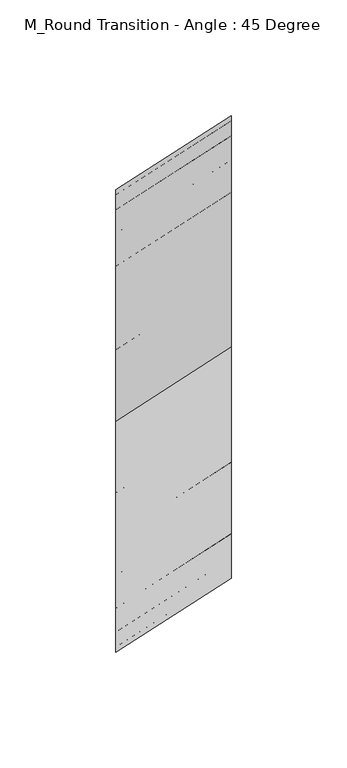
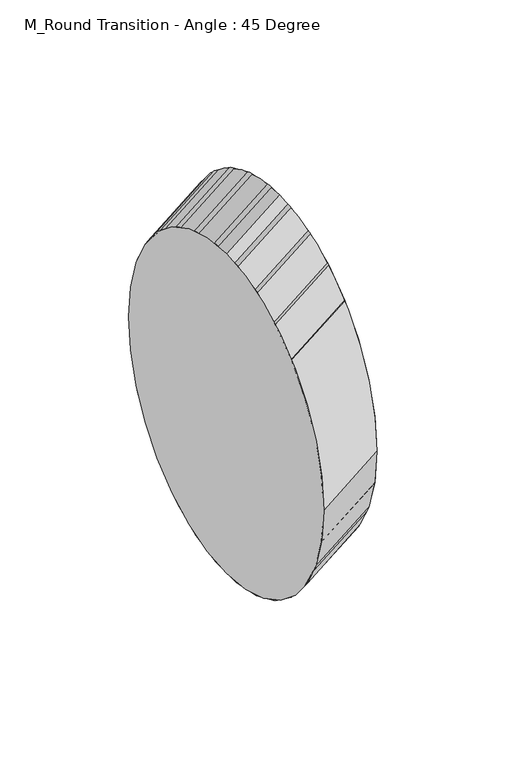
"""IFC4 building model written with IfcOpenShell, lengths in millimetres: duct fitting geometry, M_Round Transition - Angle : 45 Degree."""

from ifc_helpers import new_model, si_unit, point, frame, origin, place, context, project, spatial, circle_curve, trimmed, source, transform, mapped, element, save
from ifc_brep_helpers import plane_surface, extruded_surface, advanced_brep


def m_round_transition_angle_45_degree_277f6d53(model_context):
    return source(origin(), model_context, "Body", "AdvancedBrep", [
        advanced_brep(
        [(50.0, -67.9158404, 0.0), (50.0, 32.0841596, -100.0), (50.0, 132.0841596, 0.0), (50.0, 32.0841596, 100.0), (0.0, -100.0, 0.0), (0.0, 0.0, 100.0), (0.0, 100.0, 0.0), (0.0, 0.0, -100.0)],
        [
            (0, 1, circle_curve(frame((50.0, 32.0841596, 0.0), z_axis=(1.0, 0.0, 0.0), x_axis=(0.0, 1.0, 0.0)), 100.0)),
            (1, 2, circle_curve(frame((50.0, 32.0841596, 0.0), z_axis=(1.0, 0.0, 0.0), x_axis=(0.0, 1.0, 0.0)), 100.0)),
            (2, 3, circle_curve(frame((50.0, 32.0841596, 0.0), z_axis=(1.0, 0.0, 0.0), x_axis=(0.0, 1.0, 0.0)), 100.0)),
            (3, 0, circle_curve(frame((50.0, 32.0841596, 0.0), z_axis=(1.0, 0.0, 0.0), x_axis=(0.0, 1.0, 0.0)), 100.0)),
            (4, 5, circle_curve(frame((0.0, 0.0, 0.0), z_axis=(-1.0, 0.0, 0.0), x_axis=(0.0, 1.0, 0.0)), 100.0)),
            (5, 6, circle_curve(frame((0.0, 0.0, 0.0), z_axis=(-1.0, 0.0, 0.0), x_axis=(0.0, 1.0, 0.0)), 100.0)),
            (6, 7, circle_curve(frame((0.0, 0.0, 0.0), z_axis=(-1.0, 0.0, 0.0), x_axis=(0.0, 1.0, 0.0)), 100.0)),
            (7, 4, circle_curve(frame((0.0, 0.0, 0.0), z_axis=(-1.0, 0.0, 0.0), x_axis=(0.0, 1.0, 0.0)), 100.0)),
            (7, 1),
            (0, 4),
            (6, 2),
            (5, 3),
        ],
        [
            plane_surface(frame((50.0, 32.0841596, 0.0), z_axis=(1.0, 0.0, 0.0), x_axis=(0.0, 0.0, -1.0))),
            plane_surface(frame((0.0, 0.0, 0.0), z_axis=(-1.0, 0.0, 0.0), x_axis=(0.0, 0.0, -1.0))),
            extruded_surface(trimmed(circle_curve(frame((0.0, 0.0, 0.0), z_axis=(1.0, 0.0, 0.0), x_axis=(0.0, 1.0, 0.0)), 100.0), [point((0.0, -100.0, 0.0))], [point((0.0, 0.0, -100.0))], True, "CARTESIAN"), (50.0, 32.0841596, 0.0), 59.40869715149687),
            extruded_surface(trimmed(circle_curve(frame((0.0, 0.0, 0.0), z_axis=(1.0, 0.0, 0.0), x_axis=(0.0, 1.0, 0.0)), 100.0), [point((0.0, 0.0, -100.0))], [point((0.0, 100.0, 0.0))], True, "CARTESIAN"), (50.0, 32.0841596, 0.0), 59.40869715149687),
            extruded_surface(trimmed(circle_curve(frame((0.0, 0.0, 0.0), z_axis=(1.0, 0.0, 0.0), x_axis=(0.0, 1.0, 0.0)), 100.0), [point((0.0, 100.0, 0.0))], [point((0.0, 0.0, 100.0))], True, "CARTESIAN"), (50.0, 32.0841596, 0.0), 59.40869715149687),
            extruded_surface(trimmed(circle_curve(frame((0.0, 0.0, 0.0), z_axis=(1.0, 0.0, 0.0), x_axis=(0.0, 1.0, 0.0)), 100.0), [point((0.0, 0.0, 100.0))], [point((0.0, -100.0, 0.0))], True, "CARTESIAN"), (50.0, 32.0841596, 0.0), 59.40869715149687),
        ],
        [
            (0, [[1, 2, 3, 4]]),
            (1, [[5, 6, 7, 8]]),
            (2, [[-8, 9, -1, 10]]),
            (3, [[-7, 11, -2, -9]]),
            (4, [[-6, 12, -3, -11]]),
            (5, [[-5, -10, -4, -12]]),
        ],
    ),
        advanced_brep(
        [(0.0, -100.0, 0.0), (0.0, 0.0, 100.0), (0.0, 100.0, 0.0), (0.0, 0.0, -100.0), (50.0, -67.9158404, 0.0), (50.0, 32.0841596, -100.0), (50.0, 132.0841596, 0.0), (50.0, 32.0841596, 100.0)],
        [
            (0, 1, circle_curve(frame((0.0, 0.0, 0.0), z_axis=(-1.0, 0.0, 0.0), x_axis=(0.0, 1.0, 0.0)), 100.0)),
            (1, 2, circle_curve(frame((0.0, 0.0, 0.0), z_axis=(-1.0, 0.0, 0.0), x_axis=(0.0, 1.0, 0.0)), 100.0)),
            (2, 3, circle_curve(frame((0.0, 0.0, 0.0), z_axis=(-1.0, 0.0, 0.0), x_axis=(0.0, 1.0, 0.0)), 100.0)),
            (3, 0, circle_curve(frame((0.0, 0.0, 0.0), z_axis=(-1.0, 0.0, 0.0), x_axis=(0.0, 1.0, 0.0)), 100.0)),
            (4, 5, circle_curve(frame((50.0, 32.0841596, 0.0), z_axis=(1.0, 0.0, 0.0), x_axis=(0.0, 1.0, 0.0)), 100.0)),
            (5, 6, circle_curve(frame((50.0, 32.0841596, 0.0), z_axis=(1.0, 0.0, 0.0), x_axis=(0.0, 1.0, 0.0)), 100.0)),
            (6, 7, circle_curve(frame((50.0, 32.0841596, 0.0), z_axis=(1.0, 0.0, 0.0), x_axis=(0.0, 1.0, 0.0)), 100.0)),
            (7, 4, circle_curve(frame((50.0, 32.0841596, 0.0), z_axis=(1.0, 0.0, 0.0), x_axis=(0.0, 1.0, 0.0)), 100.0)),
            (7, 1),
            (0, 4),
            (6, 2),
            (5, 3),
        ],
        [
            plane_surface(frame((0.0, 0.0, 0.0), z_axis=(-1.0, 0.0, 0.0), x_axis=(0.0, 0.0, -1.0))),
            plane_surface(frame((50.0, 32.0841596, 0.0), z_axis=(1.0, 0.0, 0.0), x_axis=(0.0, 0.0, -1.0))),
            extruded_surface(trimmed(circle_curve(frame((50.0, 32.0841596, 0.0), z_axis=(-1.0, 0.0, 0.0), x_axis=(0.0, 1.0, 0.0)), 100.0), [point((50.0, -67.9158404, 0.0))], [point((50.0, 32.0841596, 100.0))], True, "CARTESIAN"), (-50.0, -32.0841596, 0.0), 59.40869715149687),
            extruded_surface(trimmed(circle_curve(frame((50.0, 32.0841596, 0.0), z_axis=(-1.0, 0.0, 0.0), x_axis=(0.0, 1.0, 0.0)), 100.0), [point((50.0, 32.0841596, 100.0))], [point((50.0, 132.0841596, 0.0))], True, "CARTESIAN"), (-50.0, -32.0841596, 0.0), 59.40869715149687),
            extruded_surface(trimmed(circle_curve(frame((50.0, 32.0841596, 0.0), z_axis=(-1.0, 0.0, 0.0), x_axis=(0.0, 1.0, 0.0)), 100.0), [point((50.0, 132.0841596, 0.0))], [point((50.0, 32.0841596, -100.0))], True, "CARTESIAN"), (-50.0, -32.0841596, 0.0), 59.40869715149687),
            extruded_surface(trimmed(circle_curve(frame((50.0, 32.0841596, 0.0), z_axis=(-1.0, 0.0, 0.0), x_axis=(0.0, 1.0, 0.0)), 100.0), [point((50.0, 32.0841596, -100.0))], [point((50.0, -67.9158404, 0.0))], True, "CARTESIAN"), (-50.0, -32.0841596, 0.0), 59.40869715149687),
        ],
        [
            (0, [[1, 2, 3, 4]]),
            (1, [[5, 6, 7, 8]]),
            (2, [[-8, 9, -1, 10]]),
            (3, [[-7, 11, -2, -9]]),
            (4, [[-6, 12, -3, -11]]),
            (5, [[-5, -10, -4, -12]]),
        ],
    ),
        advanced_brep(
        [(50.0, -67.9158404, 0.0), (50.0, 132.0841596, 0.0), (0.0, -100.0, 0.0), (0.0, 100.0, 0.0)],
        [
            (0, 1, circle_curve(frame((50.0, 32.0841596, 0.0), z_axis=(1.0, 0.0, 0.0), x_axis=(0.0, 1.0, 0.0)), 100.0)),
            (1, 0, circle_curve(frame((50.0, 32.0841596, 0.0), z_axis=(1.0, 0.0, 0.0), x_axis=(0.0, 1.0, 0.0)), 100.0)),
            (2, 3, circle_curve(frame((0.0, 0.0, 0.0), z_axis=(-1.0, 0.0, 0.0), x_axis=(0.0, 1.0, 0.0)), 100.0)),
            (3, 2, circle_curve(frame((0.0, 0.0, 0.0), z_axis=(-1.0, 0.0, 0.0), x_axis=(0.0, 1.0, 0.0)), 100.0)),
            (3, 1),
            (0, 2),
        ],
        [
            plane_surface(frame((50.0, 32.0841596, 0.0), z_axis=(1.0, 0.0, 0.0), x_axis=(0.0, 0.0, -1.0))),
            plane_surface(frame((0.0, 0.0, 0.0), z_axis=(-1.0, 0.0, 0.0), x_axis=(0.0, 0.0, -1.0))),
            extruded_surface(trimmed(circle_curve(frame((0.0, 0.0, 0.0), z_axis=(1.0, 0.0, 0.0), x_axis=(0.0, 1.0, 0.0)), 100.0), [point((0.0, -100.0, 0.0))], [point((0.0, 100.0, 0.0))], True, "CARTESIAN"), (50.0, 32.0841596, 0.0), 59.40869715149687),
            extruded_surface(trimmed(circle_curve(frame((0.0, 0.0, 0.0), z_axis=(1.0, 0.0, 0.0), x_axis=(0.0, 1.0, 0.0)), 100.0), [point((0.0, 100.0, 0.0))], [point((0.0, -100.0, 0.0))], True, "CARTESIAN"), (50.0, 32.0841596, 0.0), 59.40869715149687),
        ],
        [
            (0, [[1, 2]]),
            (1, [[3, 4]]),
            (2, [[-4, 5, -1, 6]]),
            (3, [[-3, -6, -2, -5]]),
        ],
    ),
    ])


if __name__ == "__main__":
    model = new_model("IFC4")
    model_context = context("Model", 3, world=origin())
    ifc_project = project(units=[si_unit("LENGTHUNIT", "METRE", prefix="MILLI")], contexts=[model_context])
    site = spatial("IfcSite", under=ifc_project)
    building = spatial("IfcBuilding", under=site)
    placement = place(None, origin())
    m_round_transition_angle_45_degree_shape = m_round_transition_angle_45_degree_277f6d53(model_context)
    element("IfcDuctFitting", 1, ObjectType="M_Round Transition - Angle : 45 Degree", at=placement, inside=building, context=model_context, shape_type="MappedRepresentation", body=[
        mapped(m_round_transition_angle_45_degree_shape, transform((0.0, 0.0, 0.0), x_axis=(1.0, 0.0, 0.0), y_axis=(0.0, 1.0, 0.0), z_axis=(0.0, 0.0, 1.0))),
    ])
    save(model, "model.ifc")
